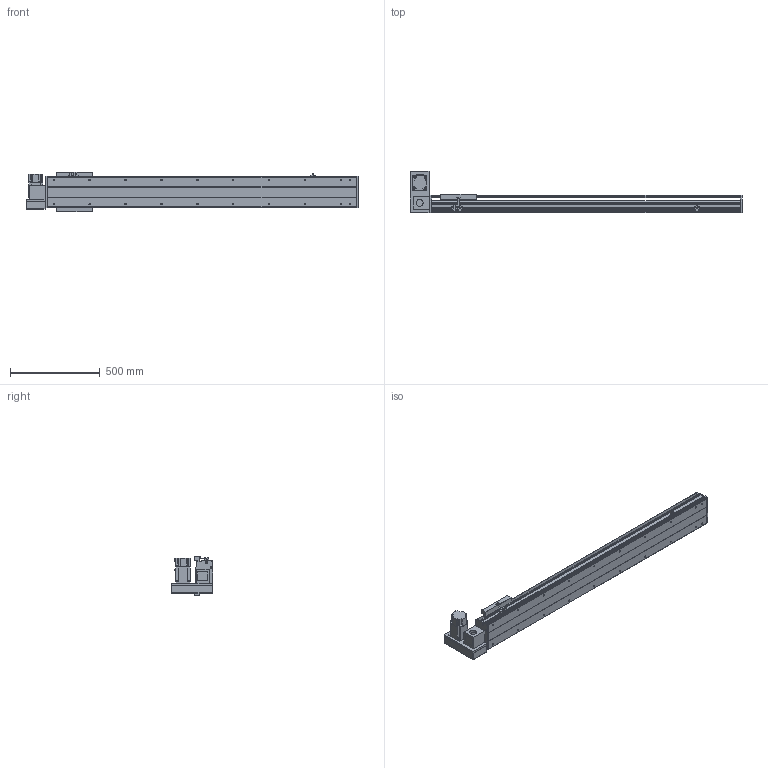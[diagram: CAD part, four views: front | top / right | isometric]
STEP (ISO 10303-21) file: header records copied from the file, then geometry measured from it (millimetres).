
FILE_DESCRIPTION(/* description */ ('STEP AP214'),/* implementation_level */ '2;1');
FILE_NAME(/* name */ 'PBS200-P40-S1350-LU-T75-C1-N(0)',/* time_stamp */ '2022-06-11T09:00:16+02:00',/* author */ ('License CC BY-ND 4.0'),/* organization */ ('CADENAS'),/* preprocessor_version */ 'ST-DEVELOPER v18.102',/* originating_system */ 'PARTsolutions',/* authorisation */ ' ');
FILE_SCHEMA (('AUTOMOTIVE_DESIGN {1 0 10303 214 3 1 1}'));
Length unit declared in the file: millimetre
Products named in the file (7): PBS200-P40-S1350-LU-T75-C1-N(0); PBS200_sensor; PBS200_plant; PBS200_sliser; T75-p1; PBS200T-LU_motors; PBS200-S1350()_body
Assembly tree (8 placements, depth 2):
  PBS200-P40-S1350-LU-T75-C1-N(0)
    PBS200_sensor  x3
    PBS200_plant
    PBS200_sliser
    T75-p1
    PBS200T-LU_motors
    PBS200-S1350()_body
Bounding box: 1850 x 231 x 221 mm (x, y, z)
Volume: 13422427.9 mm3; surface area: 2164371.2 mm2
Topology: 8 solids, 8 shells, 932 faces, 2394 edges, 1560 vertices
Faces by surface type: plane 578, cylinder 302, cone 52
Full cylindrical faces by diameter (mm): 2.459 x6, 3.242 x4, 4.5 x6, 4.917 x4, 5 x6, 6 x7, 6.6 x8, 6.647 x24, 8 x6, 10 x4, 12 x8, 38 x2, 40 x1, 70 x1
Entity records: 24821 total; most frequent: DIRECTION 4375, CARTESIAN_POINT 4228, ORIENTED_EDGE 4006, EDGE_CURVE 2003, AXIS2_PLACEMENT_3D 1531, VERTEX_POINT 1384, LINE 1313, VECTOR 1313
